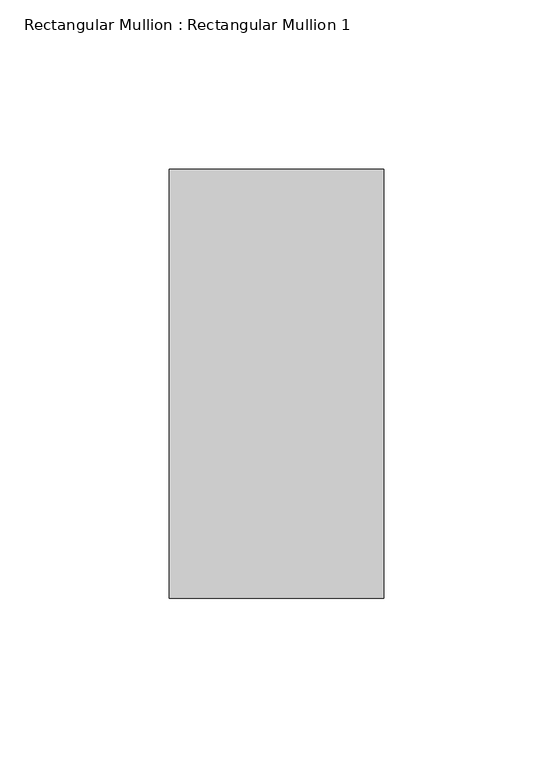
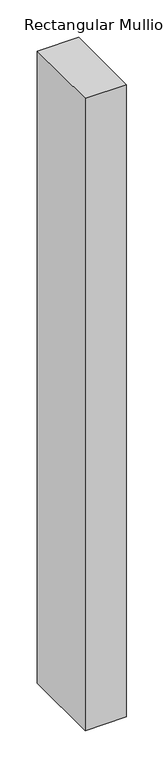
"""IFC4 building model written with IfcOpenShell, lengths in millimetres: member geometry, Rectangular Mullion : Rectangular Mullion 1."""

from ifc_helpers import new_model, si_unit, frame, origin, place, context, project, spatial, polyline, outline, extrude, source, transform, mapped, element, save


def rectangular_mullion_rectangular_mullion_1_32bdf917(model_context):
    return source(origin(), model_context, "Body", "SweptSolid", [
        extrude(outline(polyline([(0.0, 63.5), (0.0, -63.5), (-63.5, -63.5), (-63.5, 63.5), (0.0, 63.5)])), frame((0.0, 0.0, -1030.5142857), z_axis=(0.0, 0.0, 1.0), x_axis=(1.0, 0.0, 0.0)), (0.0, 0.0, 1.0), 1030.5142857),
    ])


if __name__ == "__main__":
    model = new_model("IFC4")
    model_context = context("Model", 3, world=origin())
    ifc_project = project(units=[si_unit("LENGTHUNIT", "METRE", prefix="MILLI")], contexts=[model_context])
    site = spatial("IfcSite", under=ifc_project)
    building = spatial("IfcBuilding", under=site)
    placement = place(None, origin())
    rectangular_mullion_rectangular_mullion_1_shape = rectangular_mullion_rectangular_mullion_1_32bdf917(model_context)
    element("IfcMember", 1, ObjectType="Rectangular Mullion : Rectangular Mullion 1", at=placement, inside=building, context=model_context, shape_type="MappedRepresentation", body=[
        mapped(rectangular_mullion_rectangular_mullion_1_shape, transform((0.0, 0.0, 0.0), x_axis=(1.0, 0.0, 0.0), y_axis=(0.0, 1.0, 0.0), z_axis=(0.0, 0.0, 1.0))),
    ])
    save(model, "model.ifc")
